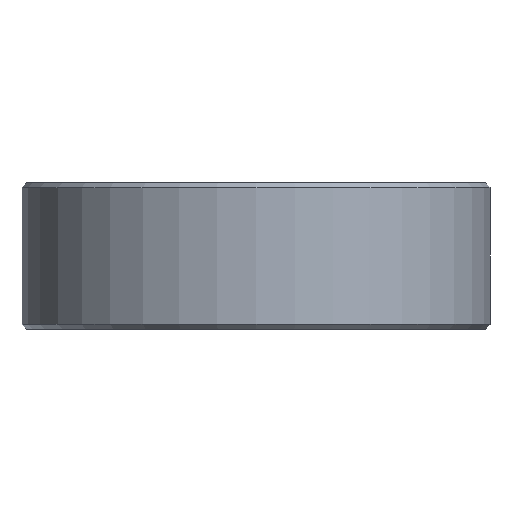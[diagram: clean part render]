
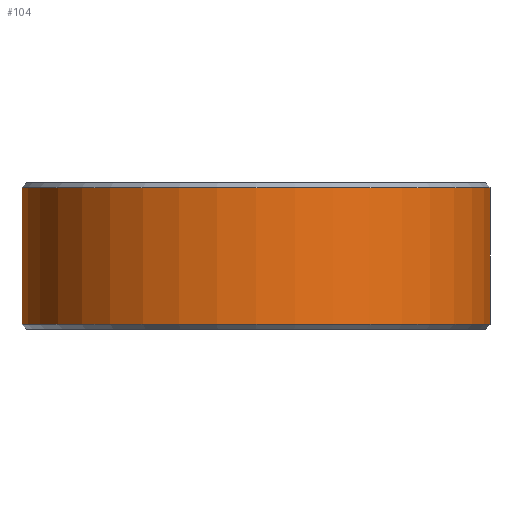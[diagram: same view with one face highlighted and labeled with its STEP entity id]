
A CAD part, front view. The second image highlights one B-rep face of the part: STEP entity #104.
In plain terms, the highlighted cylindrical face has radius 24 mm (diameter 48 mm), a partial arc.
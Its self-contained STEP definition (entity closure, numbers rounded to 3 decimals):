
#104 = ADVANCED_FACE( '', ( #203 ), #204, .T. );
#203 = FACE_OUTER_BOUND( '', #335, .T. );
#204 = CYLINDRICAL_SURFACE( '', #336, 24. );
#335 = EDGE_LOOP( '', ( #601, #602, #603, #604 ) );
#336 = AXIS2_PLACEMENT_3D( '', #605, #606, #607 );
#601 = ORIENTED_EDGE( '', *, *, #834, .T. );
#602 = ORIENTED_EDGE( '', *, *, #765, .T. );
#603 = ORIENTED_EDGE( '', *, *, #835, .F. );
#604 = ORIENTED_EDGE( '', *, *, #826, .T. );
#605 = CARTESIAN_POINT( '', ( 0., 0., 7.5 ) );
#606 = DIRECTION( '', ( 0., 0., -1. ) );
#607 = DIRECTION( '', ( 1., 0., 0. ) );
#765 = EDGE_CURVE( '', #877, #875, #878, .T. );
#826 = EDGE_CURVE( '', #986, #984, #987, .F. );
#834 = EDGE_CURVE( '', #984, #877, #999, .T. );
#835 = EDGE_CURVE( '', #986, #875, #1000, .T. );
#875 = VERTEX_POINT( '', #1064 );
#877 = VERTEX_POINT( '', #1069 );
#878 = LINE( '', #1070, #1071 );
#984 = VERTEX_POINT( '', #1376 );
#986 = VERTEX_POINT( '', #1381 );
#987 = LINE( '', #1382, #1383 );
#999 = CIRCLE( '', #1409, 24. );
#1000 = CIRCLE( '', #1410, 24. );
#1064 = CARTESIAN_POINT( '', ( 23.953, -1.5, 7. ) );
#1069 = CARTESIAN_POINT( '', ( 23.953, -1.5, -7. ) );
#1070 = CARTESIAN_POINT( '', ( 23.953, -1.5, 7.5 ) );
#1071 = VECTOR( '', #1485, 1000. );
#1376 = CARTESIAN_POINT( '', ( -23.953, -1.5, -7. ) );
#1381 = CARTESIAN_POINT( '', ( -23.953, -1.5, 7. ) );
#1382 = CARTESIAN_POINT( '', ( -23.953, -1.5, 7.5 ) );
#1383 = VECTOR( '', #1578, 1000. );
#1409 = AXIS2_PLACEMENT_3D( '', #1584, #1585, #1586 );
#1410 = AXIS2_PLACEMENT_3D( '', #1587, #1588, #1589 );
#1485 = DIRECTION( '', ( 0., 0., 1. ) );
#1578 = DIRECTION( '', ( 0., 0., 1. ) );
#1584 = CARTESIAN_POINT( '', ( 0., 0., -7. ) );
#1585 = DIRECTION( '', ( 0., 0., 1. ) );
#1586 = DIRECTION( '', ( 1., 0., 0. ) );
#1587 = CARTESIAN_POINT( '', ( 0., 0., 7. ) );
#1588 = DIRECTION( '', ( 0., 0., 1. ) );
#1589 = DIRECTION( '', ( 1., 0., 0. ) );
